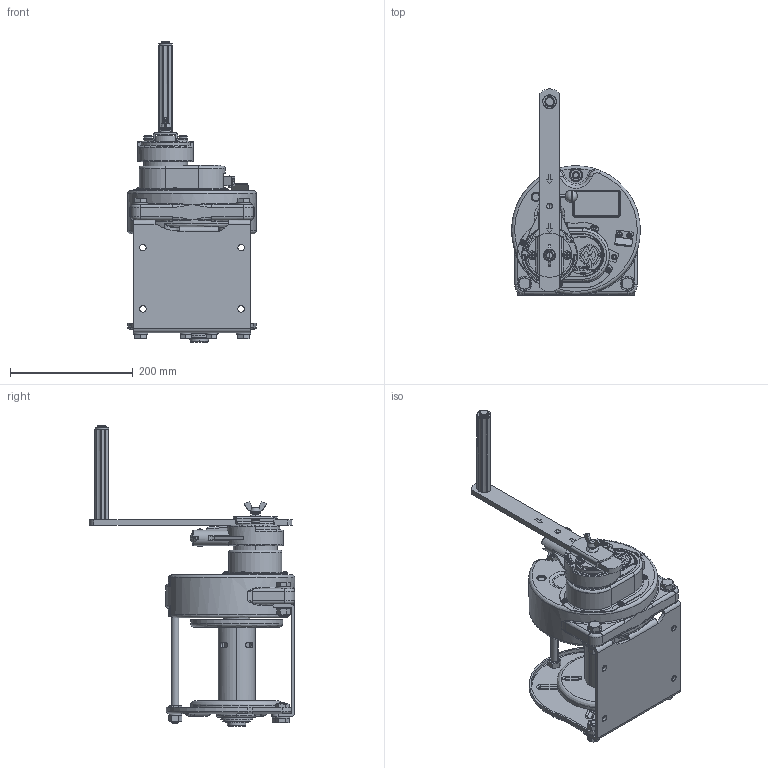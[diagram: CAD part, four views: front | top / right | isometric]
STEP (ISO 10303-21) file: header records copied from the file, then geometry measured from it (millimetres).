
FILE_DESCRIPTION( (''), '2;1');
FILE_NAME ('MR-3.stp','2023-12-22T17:08:18',(''),(''),'spGate 19.8.2 (****-****-****-****)','','');
FILE_SCHEMA (('AUTOMOTIVE_DESIGN'));
Length unit declared in the file: millimetre
Products named in the file (3): Assembly; MR-3-prt0; MR-3-prt1
Assembly tree (2 placements, depth 2):
  Assembly
    MR-3-prt0
    MR-3-prt1
Bounding box: 209.96 x 335.43 x 489.2 mm (x, y, z)
Volume: 3930165.2 mm3; surface area: 608850.1 mm2
Topology: 2 solids, 2 shells, 2872 faces, 7413 edges, 4667 vertices
Faces by surface type: plane 1429, cylinder 855, bspline 473, sphere 115
Entity records: 156709 total; most frequent: CARTESIAN_POINT 29368, ORIENTED_EDGE 14682, DIRECTION 14192, COLOUR_RGB 10215, PRESENTATION_STYLE_ASSIGNMENT 10215, STYLED_ITEM 10215, EDGE_CURVE 7341, DRAUGHTING_PRE_DEFINED_CURVE_FONT 7341
